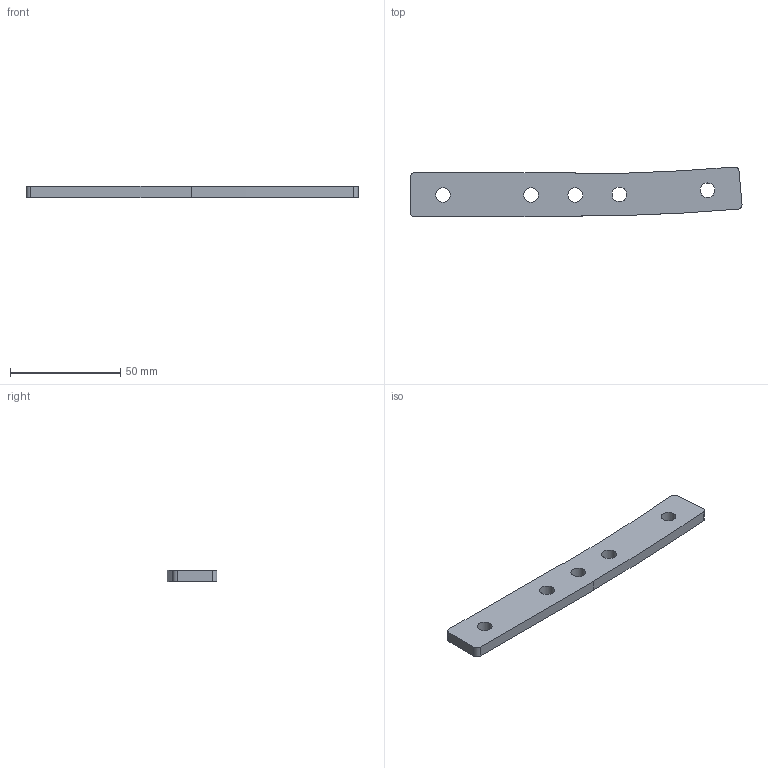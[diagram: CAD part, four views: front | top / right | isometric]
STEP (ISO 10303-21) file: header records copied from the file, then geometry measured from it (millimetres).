
FILE_DESCRIPTION(/* description */ ('CONNECTING STRIP VERTICAL BEND R860'),/* implementation_level */ '2;1');
FILE_NAME(/* name */ '\\carryline.intra\privat\users\mathias\Desktop\Tillfälliga filer\100-7027.stp',/* time_stamp */ '2018-11-20T11:15:32+01:00',/* author */ ('PL'),/* organization */ ('CARRYLINE'),/* preprocessor_version */ 'ST-DEVELOPER v17',/* originating_system */ 'Autodesk Inventor 2018',/* authorisation */ '');
FILE_SCHEMA (('AUTOMOTIVE_DESIGN { 1 0 10303 214 3 1 1 }'));
Length unit declared in the file: millimetre
Products named in the file (1): 100-7027
Bounding box: 150.66 x 22.67 x 5 mm (x, y, z)
Volume: 13824.5 mm3; surface area: 7735.6 mm2
Topology: 1 solids, 1 shells, 19 faces, 56 edges, 39 vertices
Faces by surface type: cylinder 11, plane 8
Full cylindrical faces by diameter (mm): 6.647 x5
Entity records: 716 total; most frequent: DIRECTION 123, CARTESIAN_POINT 115, ORIENTED_EDGE 112, EDGE_CURVE 56, AXIS2_PLACEMENT_3D 47, VERTEX_POINT 39, EDGE_LOOP 29, LINE 29
